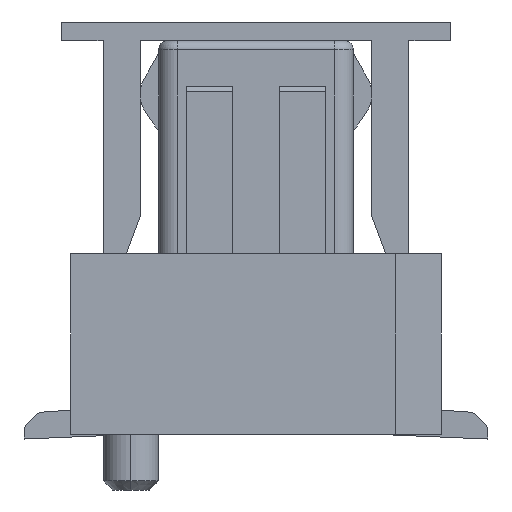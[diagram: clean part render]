
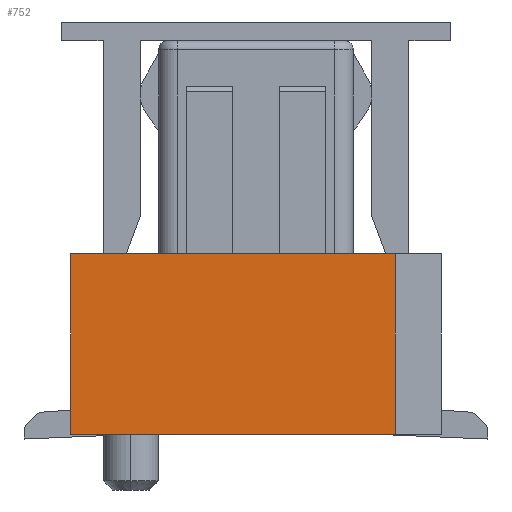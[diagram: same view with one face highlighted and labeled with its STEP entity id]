
A CAD part, left-side view. The second image highlights one B-rep face of the part: STEP entity #752.
In plain terms, the highlighted planar face has unit normal (-1, 0, 0).
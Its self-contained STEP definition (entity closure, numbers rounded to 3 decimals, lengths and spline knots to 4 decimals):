
#713=CARTESIAN_POINT('Axis2P3D Location',(-8.95,0.,0.)) ;
#718=CARTESIAN_POINT('Line Origine',(-8.95,-1.5,0.975)) ;
#722=CARTESIAN_POINT('Vertex',(-8.95,-1.5,1.95)) ;
#724=CARTESIAN_POINT('Vertex',(-8.95,-1.5,0.)) ;
#727=CARTESIAN_POINT('Line Origine',(-8.95,0.25,1.95)) ;
#731=CARTESIAN_POINT('Vertex',(-8.95,2.,1.95)) ;
#734=CARTESIAN_POINT('Line Origine',(-8.95,2.,0.975)) ;
#738=CARTESIAN_POINT('Vertex',(-8.95,2.,0.)) ;
#741=CARTESIAN_POINT('Line Origine',(-8.95,0.25,0.)) ;
#714=DIRECTION('Axis2P3D Direction',(1.,0.,0.)) ;
#715=DIRECTION('Axis2P3D XDirection',(0.,1.,0.)) ;
#719=DIRECTION('Vector Direction',(0.,0.,1.)) ;
#728=DIRECTION('Vector Direction',(0.,1.,0.)) ;
#735=DIRECTION('Vector Direction',(0.,0.,1.)) ;
#742=DIRECTION('Vector Direction',(0.,-1.,0.)) ;
#716=AXIS2_PLACEMENT_3D('Plane Axis2P3D',#713,#714,#715) ;
#747=ORIENTED_EDGE('',*,*,#726,.F.) ;
#748=ORIENTED_EDGE('',*,*,#733,.F.) ;
#749=ORIENTED_EDGE('',*,*,#740,.F.) ;
#750=ORIENTED_EDGE('',*,*,#745,.F.) ;
#720=VECTOR('Line Direction',#719,1.) ;
#729=VECTOR('Line Direction',#728,1.) ;
#736=VECTOR('Line Direction',#735,1.) ;
#743=VECTOR('Line Direction',#742,1.) ;
#752=ADVANCED_FACE('\X2\96F64EF651E04F554F53\X0\',(#751),#717,.F.) ;
#726=EDGE_CURVE('',#723,#725,#721,.F.) ;
#733=EDGE_CURVE('',#732,#723,#730,.F.) ;
#740=EDGE_CURVE('',#739,#732,#737,.T.) ;
#745=EDGE_CURVE('',#725,#739,#744,.F.) ;
#746=EDGE_LOOP('',(#747,#748,#749,#750)) ;
#751=FACE_OUTER_BOUND('',#746,.T.) ;
#721=LINE('Line',#718,#720) ;
#730=LINE('Line',#727,#729) ;
#737=LINE('Line',#734,#736) ;
#744=LINE('Line',#741,#743) ;
#717=PLANE('Plane',#716) ;
#723=VERTEX_POINT('',#722) ;
#725=VERTEX_POINT('',#724) ;
#732=VERTEX_POINT('',#731) ;
#739=VERTEX_POINT('',#738) ;
